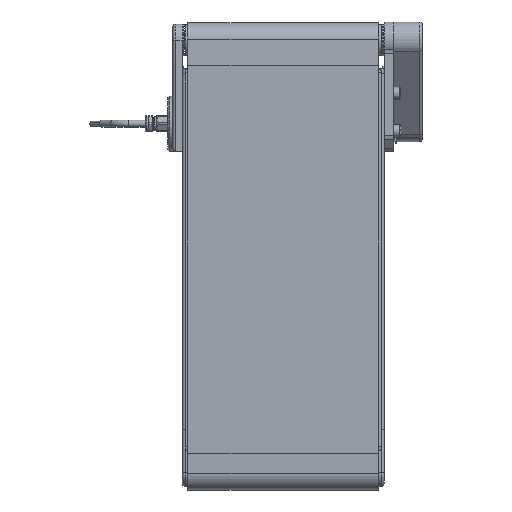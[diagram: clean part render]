
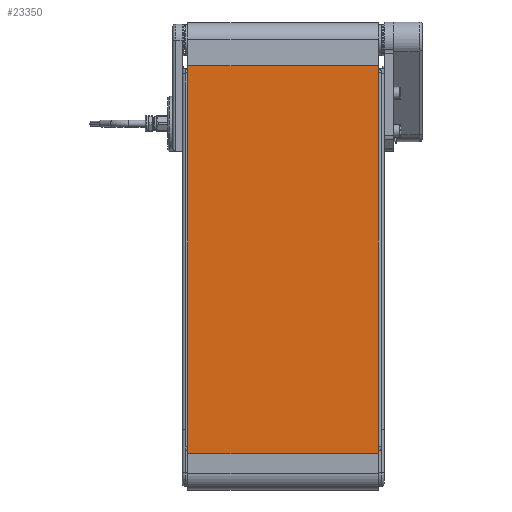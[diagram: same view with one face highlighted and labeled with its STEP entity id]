
A CAD part, left-side view. The second image highlights one B-rep face of the part: STEP entity #23350.
In plain terms, the highlighted planar face has unit normal (-1, 0, 0).
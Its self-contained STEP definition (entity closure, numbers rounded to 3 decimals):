
#1364=PLANE('',#25717);
#2576=FACE_OUTER_BOUND('',#3945,.T.);
#3945=EDGE_LOOP('',(#20465,#20466,#20467,#20468));
#5644=LINE('',#48370,#7350);
#5651=LINE('',#48385,#7357);
#5652=LINE('',#48388,#7358);
#5653=LINE('',#48389,#7359);
#7350=VECTOR('',#32008,10.);
#7357=VECTOR('',#32023,10.);
#7358=VECTOR('',#32026,10.);
#7359=VECTOR('',#32027,10.);
#10716=VERTEX_POINT('',#48367);
#10717=VERTEX_POINT('',#48369);
#10721=VERTEX_POINT('',#48383);
#10722=VERTEX_POINT('',#48387);
#13965=EDGE_CURVE('',#10716,#10717,#5644,.T.);
#13973=EDGE_CURVE('',#10716,#10721,#5651,.T.);
#13974=EDGE_CURVE('',#10722,#10721,#5652,.T.);
#13975=EDGE_CURVE('',#10717,#10722,#5653,.T.);
#20465=ORIENTED_EDGE('',*,*,#13973,.T.);
#20466=ORIENTED_EDGE('',*,*,#13974,.F.);
#20467=ORIENTED_EDGE('',*,*,#13975,.F.);
#20468=ORIENTED_EDGE('',*,*,#13965,.F.);
#23350=ADVANCED_FACE('',(#2576),#1364,.T.);
#25717=AXIS2_PLACEMENT_3D('',#48386,#32024,#32025);
#32008=DIRECTION('',(0.,0.,1.));
#32023=DIRECTION('',(0.,-1.,0.));
#32024=DIRECTION('center_axis',(-1.,0.,0.));
#32025=DIRECTION('ref_axis',(0.,0.,
-1.));
#32026=DIRECTION('',(0.,0.,-1.));
#32027=DIRECTION('',(0.,-1.,0.));
#48367=CARTESIAN_POINT('',(-12.5,126.,-140.219));
#48369=CARTESIAN_POINT('',(-12.5,126.,128.814));
#48370=CARTESIAN_POINT('',(-12.5,126.,128.814));
#48383=CARTESIAN_POINT('',(-12.5,-6.,-140.219));
#48385=CARTESIAN_POINT('',(-12.5,60.,-140.219));
#48386=CARTESIAN_POINT('Origin',(-12.5,60.,128.814));
#48387=CARTESIAN_POINT('',(-12.5,-6.,128.814));
#48388=CARTESIAN_POINT('',(-12.5,-6.,128.814));
#48389=CARTESIAN_POINT('',(-12.5,60.,128.814));
